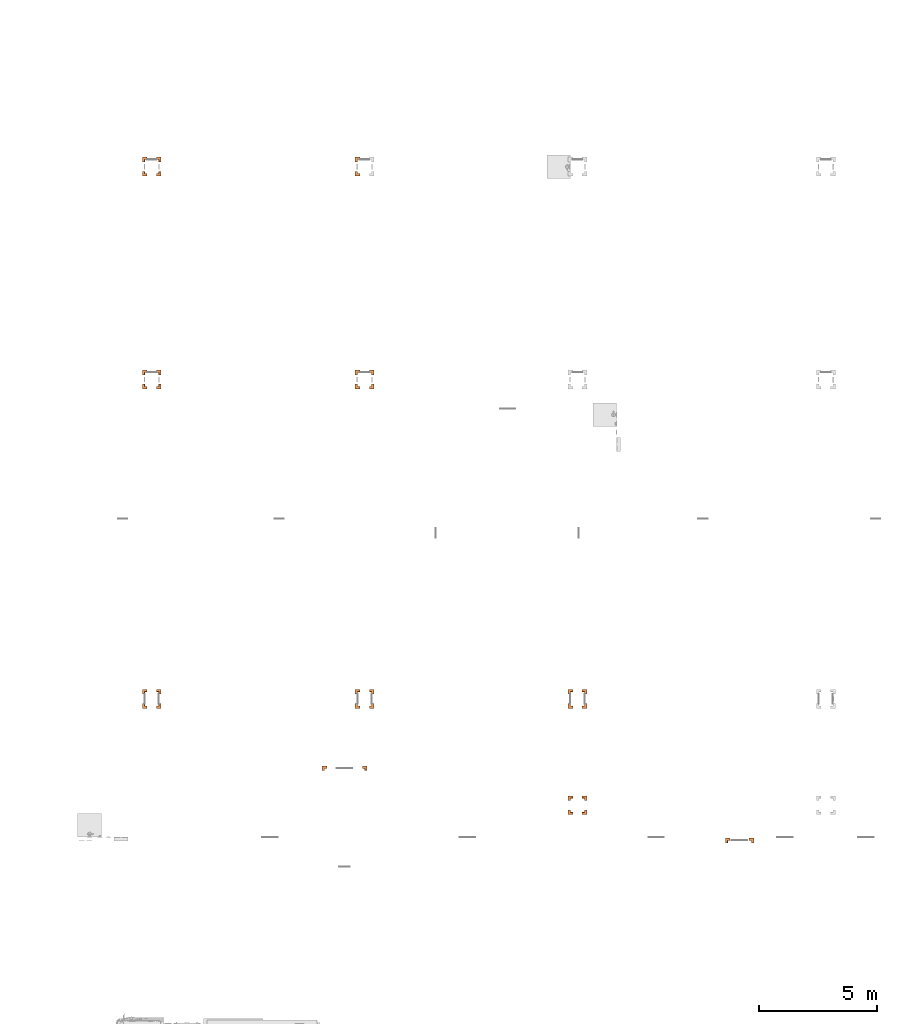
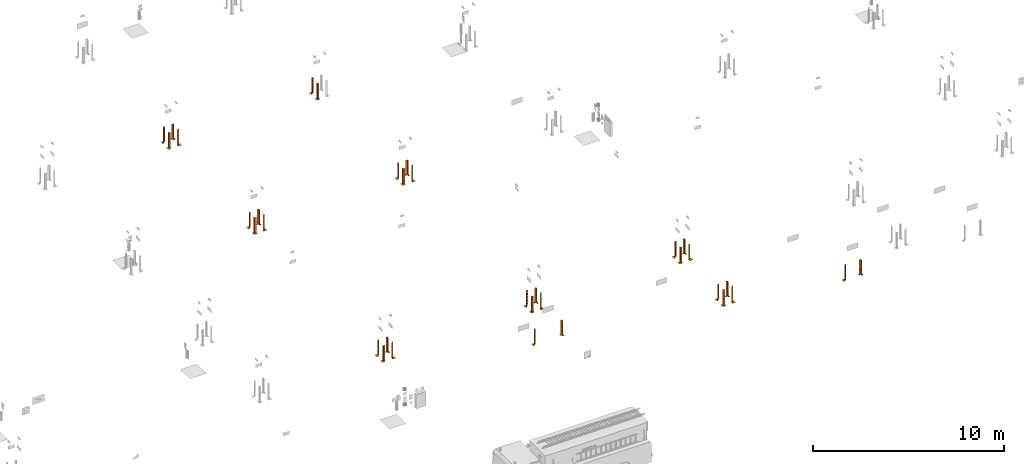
# One storey, part 8 of 119: 34 proxies.
"""IFC2X3 building model written with IfcOpenShell, lengths in metres."""

from ifc_helpers import new_model, entity, si_unit, converted_unit, derived_unit, direction, frame, origin, place, context, subcontext, project, spatial, faceted_brep, source, transform, mapped, material, material_list, type_object, type_shapes, element, save


model = new_model("IFC2X3")

# Units and contexts
model_context = context("Model", 3, precision=1e-05, world=origin(), true_north=direction((6.12303176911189e-17, 1.0)))
body_context = subcontext(model_context, "Body", "Model", "MODEL_VIEW")
ifc_project = project(units=[si_unit("LENGTHUNIT", "METRE"), si_unit("AREAUNIT", "SQUARE_METRE"), si_unit("VOLUMEUNIT", "CUBIC_METRE"), converted_unit("PLANEANGLEUNIT", "DEGREE", entity("IfcRatioMeasure", 0.0174532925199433), si_unit("PLANEANGLEUNIT", "RADIAN"), dimensions=[0, 0, 0, 0, 0, 0, 0]), si_unit("MASSUNIT", "GRAM", prefix="KILO"), derived_unit("MASSDENSITYUNIT", [(si_unit("MASSUNIT", "GRAM", prefix="KILO"), 1), (si_unit("LENGTHUNIT", "METRE"), -3)]), derived_unit("MOMENTOFINERTIAUNIT", [(si_unit("LENGTHUNIT", "METRE"), 4)]), si_unit("TIMEUNIT", "SECOND"), si_unit("FREQUENCYUNIT", "HERTZ"), si_unit("THERMODYNAMICTEMPERATUREUNIT", "DEGREE_CELSIUS"), derived_unit("THERMALTRANSMITTANCEUNIT", [(si_unit("MASSUNIT", "GRAM", prefix="KILO"), 1), (si_unit("THERMODYNAMICTEMPERATUREUNIT", "KELVIN"), -1), (si_unit("TIMEUNIT", "SECOND"), -3)]), derived_unit("VOLUMETRICFLOWRATEUNIT", [(si_unit("LENGTHUNIT", "METRE"), 3), (si_unit("TIMEUNIT", "SECOND"), -1)]), si_unit("ELECTRICCURRENTUNIT", "AMPERE"), si_unit("ELECTRICVOLTAGEUNIT", "VOLT"), si_unit("POWERUNIT", "WATT"), si_unit("FORCEUNIT", "NEWTON", prefix="KILO"), si_unit("ILLUMINANCEUNIT", "LUX"), si_unit("LUMINOUSFLUXUNIT", "LUMEN"), si_unit("LUMINOUSINTENSITYUNIT", "CANDELA"), derived_unit("USERDEFINED", [(si_unit("MASSUNIT", "GRAM", prefix="KILO"), -1), (si_unit("LENGTHUNIT", "METRE"), -2), (si_unit("TIMEUNIT", "SECOND"), 3), (si_unit("LUMINOUSFLUXUNIT", "LUMEN"), 1)]), derived_unit("LINEARVELOCITYUNIT", [(si_unit("LENGTHUNIT", "METRE"), 1), (si_unit("TIMEUNIT", "SECOND"), -1)]), si_unit("PRESSUREUNIT", "PASCAL"), derived_unit("USERDEFINED", [(si_unit("LENGTHUNIT", "METRE"), -2), (si_unit("MASSUNIT", "GRAM", prefix="KILO"), 1), (si_unit("TIMEUNIT", "SECOND"), -2)]), derived_unit("LINEARFORCEUNIT", [(si_unit("MASSUNIT", "GRAM", prefix="KILO"), 1), (si_unit("LENGTHUNIT", "METRE"), 1), (si_unit("TIMEUNIT", "SECOND"), -2), (si_unit("LENGTHUNIT", "METRE"), -1)]), derived_unit("PLANARFORCEUNIT", [(si_unit("MASSUNIT", "GRAM", prefix="KILO"), 1), (si_unit("LENGTHUNIT", "METRE"), 1), (si_unit("TIMEUNIT", "SECOND"), -2), (si_unit("LENGTHUNIT", "METRE"), -2)])], contexts=[model_context])

# Site, building, storey
site_placement = place(None, origin())
site = spatial("IfcSite", under=ifc_project, at=site_placement, Name="Default", CompositionType="ELEMENT")
building_placement = place(site_placement, origin())
building = spatial("IfcBuilding", under=site, at=building_placement, CompositionType="ELEMENT")
storey_placement = place(building_placement, origin())
storey = spatial("IfcBuildingStorey", under=building, at=storey_placement, Name="PAV. 01 - TÉRREO", CompositionType="ELEMENT", Elevation=0.0)

# Proxies
ifc_material_1 = material(Name="Plastico Amarelo")
ifc_material_2 = material(Name="Plastico Preto")
ifc_material_3 = material(Name="O_01_amarelo")
ifc_material_4 = material(Name="O_01_Preto")
ifc_material_list_1 = material_list([ifc_material_1, ifc_material_2, ifc_material_3, ifc_material_4])
ifc_material_list_2 = material_list([ifc_material_3, ifc_material_4, ifc_material_1])
building_element_proxy_type = type_object("IfcBuildingElementProxyType", Name="Indicação de Obstáculos:Indicador - O01 - Amarelo (ambiente interno)", PredefinedType="NOTDEFINED", material=ifc_material_list_2)
shared_shape = source(origin(), body_context, "Body", "Brep", [
    faceted_brep([(0.1, -0.0499999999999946, 0.000999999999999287), (0.0499999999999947, -0.1, 0.000999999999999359), (0.1, -0.1, 0.000999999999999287), (0.1, -0.0499999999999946, 0.0), (0.1, -0.1, 0.0), (0.0499999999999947, -0.1, 0.0)], [[[0, 1, 2]], [[3, 4, 5]], [[0, 2, 4, 3]], [[1, 0, 3, 5]], [[2, 1, 5, 4]]]),
    faceted_brep([(0.100000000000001, 0.0, 0.000999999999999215), (0.0, -0.1, 0.000999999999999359), (0.049999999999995, -0.1, 0.000999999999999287), (0.100000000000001, -0.0499999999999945, 0.000999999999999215), (0.100000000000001, 0.0, 0.0), (0.100000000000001, -0.0499999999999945, 0.0), (0.049999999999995, -0.1, 0.0), (0.0, -0.1, 0.0)], [[[0, 1, 2, 3]], [[4, 5, 6, 7]], [[0, 3, 5, 4]], [[1, 0, 4, 7]], [[3, 2, 6, 5]], [[2, 1, 7, 6]]]),
    faceted_brep([(0.049999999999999, 0.0, 0.000999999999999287), (-0.0500000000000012, -0.0999999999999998, 0.000999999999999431), (0.0, -0.1, 0.000999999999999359), (0.0999999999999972, 0.0, 0.000999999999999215), (0.049999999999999, 0.0, 0.0), (0.0999999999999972, 0.0, 0.0), (0.0, -0.1, 0.0), (-0.0500000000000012, -0.0999999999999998, 0.0)], [[[0, 1, 2, 3]], [[4, 5, 6, 7]], [[1, 0, 4, 7]], [[3, 2, 6, 5]], [[2, 1, 7, 6]], [[0, 3, 5, 4]]]),
    faceted_brep([(-0.0999999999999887, -0.0999999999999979, 0.000999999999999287), (-0.0499999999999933, -0.0999999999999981, 0.000999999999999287), (0.0499999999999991, 0.0, 0.000999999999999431), (0.0, 0.0, 0.000999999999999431), (-0.0999999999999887, -0.0999999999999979, 0.0), (0.0, 0.0, 0.0), (0.049999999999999, 0.0, 0.0), (-0.0499999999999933, -0.0999999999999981, 0.0)], [[[0, 1, 2, 3]], [[4, 5, 6, 7]], [[0, 3, 5, 4]], [[2, 1, 7, 6]], [[3, 2, 6, 5]], [[1, 0, 4, 7]]]),
    faceted_brep([(0.0, 0.0500000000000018, 0.000999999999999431), (-0.0999999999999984, -0.0500000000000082, 0.000999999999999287), (-0.099999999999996, -0.100000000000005, 0.000999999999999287), (0.0, 0.0, 0.000999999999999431), (0.0, 0.0500000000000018, 0.0), (0.0, 0.0, 0.0), (-0.099999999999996, -0.100000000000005, 0.0), (-0.0999999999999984, -0.0500000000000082, 0.0)], [[[0, 1, 2, 3]], [[4, 5, 6, 7]], [[0, 3, 5, 4]], [[1, 0, 4, 7]], [[2, 1, 7, 6]], [[3, 2, 6, 5]]]),
    faceted_brep([(-0.0999999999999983, 0.0499999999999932, 0.000999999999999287), (-0.0499999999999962, 0.1, 0.000999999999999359), (-0.100000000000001, 0.1, 0.000999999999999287), (-0.0999999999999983, 0.0499999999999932, 0.0), (-0.100000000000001, 0.1, 0.0), (-0.0499999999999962, 0.1, 0.0)], [[[0, 1, 2]], [[3, 4, 5]], [[0, 2, 4, 3]], [[1, 0, 3, 5]], [[2, 1, 5, 4]]]),
    faceted_brep([(-0.0999999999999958, 0.0, 0.000999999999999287), (0.0, 0.1, 0.000999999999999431), (-0.0499999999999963, 0.1, 0.000999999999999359), (-0.0999999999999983, 0.0499999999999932, 0.000999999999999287), (-0.0999999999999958, 0.0, 0.0), (-0.0999999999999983, 0.0499999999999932, 0.0), (-0.0499999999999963, 0.1, 0.0), (0.0, 0.1, 0.0)], [[[0, 1, 2, 3]], [[4, 5, 6, 7]], [[0, 3, 5, 4]], [[1, 0, 4, 7]], [[3, 2, 6, 5]], [[2, 1, 7, 6]]]),
    faceted_brep([(0.0, 0.050000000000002, 0.000999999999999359), (0.0, 0.1, 0.000999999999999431), (-0.0999999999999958, 0.0, 0.000999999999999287), (-0.0999999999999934, -0.0500000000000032, 0.000999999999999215), (0.0, 0.0500000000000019, 0.0), (-0.0999999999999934, -0.0500000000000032, 0.0), (-0.0999999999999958, 0.0, 0.0), (0.0, 0.1, 0.0)], [[[0, 1, 2, 3]], [[4, 5, 6, 7]], [[1, 0, 4, 7]], [[2, 1, 7, 6]], [[0, 3, 5, 4]], [[3, 2, 6, 5]]]),
    faceted_brep([(0.00200000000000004, 0.1, 1.0), (0.002, 0.00199999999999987, 0.902000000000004), (0.002, 0.00199999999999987, 0.802000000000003), (0.00200000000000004, 0.1, 0.900000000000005), (0.0, 0.1, 0.900000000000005), (0.0, 0.0, 0.800000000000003), (0.0, 0.0, 0.900000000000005), (0.0, 0.1, 1.0)], [[[0, 1, 2, 3]], [[4, 5, 6, 7]], [[4, 3, 2, 5]], [[1, 6, 5, 2]], [[6, 1, 0, 7]], [[3, 4, 7, 0]]]),
    faceted_brep([(0.00200000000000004, 0.1, 0.800000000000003), (0.002, 0.00199999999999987, 0.702000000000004), (0.002, 0.00199999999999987, 0.602000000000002), (0.00200000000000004, 0.1, 0.700000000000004), (0.0, 0.1, 0.700000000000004), (0.0, 0.0, 0.600000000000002), (0.0, 0.0, 0.700000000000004), (0.0, 0.1, 0.800000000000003)], [[[0, 1, 2, 3]], [[4, 5, 6, 7]], [[4, 3, 2, 5]], [[1, 6, 5, 2]], [[6, 1, 0, 7]], [[3, 4, 7, 0]]]),
    faceted_brep([(0.00200000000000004, 0.1, 0.600000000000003), (0.002, 0.00199999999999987, 0.502000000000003), (0.002, 0.00199999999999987, 0.402000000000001), (0.00200000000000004, 0.1, 0.500000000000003), (0.0, 0.1, 0.500000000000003), (0.0, 0.0, 0.400000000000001), (0.0, 0.0, 0.500000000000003), (0.0, 0.1, 0.600000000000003)], [[[0, 1, 2, 3]], [[4, 5, 6, 7]], [[4, 3, 2, 5]], [[1, 6, 5, 2]], [[6, 1, 0, 7]], [[3, 4, 7, 0]]]),
    faceted_brep([(0.00200000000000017, 0.0999999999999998, 0.400000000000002), (0.00200000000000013, 0.0019999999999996, 0.302000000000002), (0.00200000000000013, 0.0019999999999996, 0.202), (0.00200000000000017, 0.0999999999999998, 0.300000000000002), (0.0, 0.0999999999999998, 0.300000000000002), (0.0, 0.0, 0.2), (0.0, 0.0, 0.300000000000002), (0.0, 0.0999999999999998, 0.400000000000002)], [[[0, 1, 2, 3]], [[4, 5, 6, 7]], [[4, 3, 2, 5]], [[1, 6, 5, 2]], [[6, 1, 0, 7]], [[3, 4, 7, 0]]]),
    faceted_brep([(0.000500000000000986, 0.1, 0.900000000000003), (0.000500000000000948, 0.000499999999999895, 0.800500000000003), (0.000500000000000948, 0.00049999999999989, 0.700500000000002), (0.000500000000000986, 0.1, 0.800000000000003), (0.0, 0.1, 0.800000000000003), (0.0, 0.0, 0.700000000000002), (0.0, 0.0, 0.800000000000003), (0.0, 0.1, 0.900000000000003)], [[[0, 1, 2, 3]], [[4, 5, 6, 7]], [[4, 3, 2, 5]], [[1, 6, 5, 2]], [[6, 1, 0, 7]], [[3, 4, 7, 0]]]),
    faceted_brep([(0.000500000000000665, 0.1, 0.700000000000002), (0.000500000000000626, 0.000499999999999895, 0.600500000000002), (0.000500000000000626, 0.00049999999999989, 0.500500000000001), (0.000500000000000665, 0.1, 0.600000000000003), (0.0, 0.1, 0.600000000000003), (0.0, 0.0, 0.500000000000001), (0.0, 0.0, 0.600000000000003), (0.0, 0.1, 0.700000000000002)], [[[0, 1, 2, 3]], [[4, 5, 6, 7]], [[4, 3, 2, 5]], [[1, 6, 5, 2]], [[6, 1, 0, 7]], [[3, 4, 7, 0]]]),
    faceted_brep([(0.000500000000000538, 0.0999999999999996, 0.500000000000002), (0.000500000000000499, 0.000499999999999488, 0.400500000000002), (0.000500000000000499, 0.000499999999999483, 0.3005), (0.000500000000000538, 0.0999999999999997, 0.400000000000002), (0.0, 0.0999999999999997, 0.400000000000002), (0.0, 0.0, 0.3), (0.0, 0.0, 0.400000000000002), (0.0, 0.0999999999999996, 0.500000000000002)], [[[0, 1, 2, 3]], [[4, 5, 6, 7]], [[4, 3, 2, 5]], [[1, 6, 5, 2]], [[6, 1, 0, 7]], [[3, 4, 7, 0]]]),
    faceted_brep([(0.00499999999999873, 0.00499999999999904, 1.0), (0.00499999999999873, 0.00499999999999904, 0.904999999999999), (0.00499999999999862, 0.0999999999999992, 1.0), (0.0, 0.0, 0.899999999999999), (0.0, 0.0, 1.0), (0.0, 0.0999999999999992, 1.0)], [[[0, 1, 2]], [[3, 4, 5]], [[4, 0, 2, 5]], [[5, 2, 1, 3]], [[0, 4, 3, 1]]]),
    faceted_brep([(0.00499999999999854, 0.00499999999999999, 1.0), (0.0999999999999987, 0.00499999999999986, 1.0), (0.00499999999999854, 0.00499999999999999, 0.904999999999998), (0.0, 0.0, 0.899999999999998), (0.0999999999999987, 0.0, 1.0), (0.0, 0.0, 1.0)], [[[0, 1, 2]], [[3, 4, 5]], [[5, 4, 1, 0]], [[4, 3, 2, 1]], [[0, 2, 3, 5]]]),
    faceted_brep([(0.0999999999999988, 0.000499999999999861, 0.900000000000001), (0.0999999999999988, 0.000499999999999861, 0.800000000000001), (0.000499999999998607, 0.000499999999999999, 0.7005), (0.000499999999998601, 0.000499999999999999, 0.800500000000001), (0.0999999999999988, 0.0, 0.800000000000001), (0.0999999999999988, 0.0, 0.900000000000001), (0.0, 0.0, 0.800000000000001), (0.0, 0.0, 0.7)], [[[0, 1, 2, 3]], [[4, 5, 6, 7]], [[4, 7, 2, 1]], [[3, 2, 7, 6]], [[6, 5, 0, 3]], [[1, 0, 5, 4]]]),
    faceted_brep([(0.0999999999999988, 0.000499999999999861, 0.700000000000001), (0.0999999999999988, 0.000499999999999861, 0.600000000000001), (0.000499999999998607, 0.000499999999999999, 0.5005), (0.000499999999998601, 0.000499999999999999, 0.600500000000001), (0.0999999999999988, 0.0, 0.600000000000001), (0.0999999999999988, 0.0, 0.700000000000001), (0.0, 0.0, 0.600000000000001), (0.0, 0.0, 0.5)], [[[0, 1, 2, 3]], [[4, 5, 6, 7]], [[4, 7, 2, 1]], [[3, 2, 7, 6]], [[6, 5, 0, 3]], [[1, 0, 5, 4]]]),
    faceted_brep([(0.0999999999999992, 0.000499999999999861, 0.500000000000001), (0.0999999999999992, 0.000499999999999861, 0.400000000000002), (0.000499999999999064, 0.000499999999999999, 0.3005), (0.000499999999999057, 0.000499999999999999, 0.400500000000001), (0.0999999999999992, 0.0, 0.400000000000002), (0.0999999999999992, 0.0, 0.500000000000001), (0.0, 0.0, 0.400000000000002), (0.0, 0.0, 0.3)], [[[0, 1, 2, 3]], [[4, 5, 6, 7]], [[4, 7, 2, 1]], [[3, 2, 7, 6]], [[6, 5, 0, 3]], [[1, 0, 5, 4]]]),
    faceted_brep([(0.0999999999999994, 0.00199999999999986, 1.0), (0.0999999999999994, 0.00199999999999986, 0.900000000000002), (0.00199999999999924, 0.002, 0.802), (0.00199999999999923, 0.002, 0.902000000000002), (0.0999999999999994, 0.0, 0.900000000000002), (0.0999999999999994, 0.0, 1.0), (0.0, 0.0, 0.900000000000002), (0.0, 0.0, 0.8)], [[[0, 1, 2, 3]], [[4, 5, 6, 7]], [[4, 7, 2, 1]], [[3, 2, 7, 6]], [[6, 5, 0, 3]], [[1, 0, 5, 4]]]),
    faceted_brep([(0.0999999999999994, 0.00199999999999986, 0.800000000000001), (0.0999999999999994, 0.00199999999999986, 0.700000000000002), (0.00199999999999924, 0.002, 0.602), (0.00199999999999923, 0.002, 0.702000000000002), (0.0999999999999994, 0.0, 0.700000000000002), (0.0999999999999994, 0.0, 0.800000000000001), (0.0, 0.0, 0.700000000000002), (0.0, 0.0, 0.6)], [[[0, 1, 2, 3]], [[4, 5, 6, 7]], [[4, 7, 2, 1]], [[3, 2, 7, 6]], [[6, 5, 0, 3]], [[1, 0, 5, 4]]]),
    faceted_brep([(0.0999999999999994, 0.00199999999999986, 0.600000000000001), (0.0999999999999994, 0.00199999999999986, 0.500000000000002), (0.00199999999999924, 0.002, 0.402), (0.00199999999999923, 0.002, 0.502000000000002), (0.0999999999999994, 0.0, 0.500000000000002), (0.0999999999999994, 0.0, 0.600000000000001), (0.0, 0.0, 0.500000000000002), (0.0, 0.0, 0.4)], [[[0, 1, 2, 3]], [[4, 5, 6, 7]], [[4, 7, 2, 1]], [[3, 2, 7, 6]], [[6, 5, 0, 3]], [[1, 0, 5, 4]]]),
    faceted_brep([(0.0999999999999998, 0.00199999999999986, 0.400000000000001), (0.0999999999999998, 0.00199999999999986, 0.300000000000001), (0.00199999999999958, 0.002, 0.202), (0.00199999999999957, 0.002, 0.302000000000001), (0.0999999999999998, 0.0, 0.300000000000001), (0.0999999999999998, 0.0, 0.400000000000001), (0.0, 0.0, 0.300000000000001), (0.0, 0.0, 0.2)], [[[0, 1, 2, 3]], [[4, 5, 6, 7]], [[4, 7, 2, 1]], [[3, 2, 7, 6]], [[6, 5, 0, 3]], [[1, 0, 5, 4]]]),
    faceted_brep([(0.000500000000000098, 0.1, 0.300000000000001), (0.000500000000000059, 0.000499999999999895, 0.200500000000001), (0.000500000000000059, 0.00049999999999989, 0.1005), (0.000500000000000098, 0.1, 0.200000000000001), (0.0, 0.1, 0.200000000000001), (0.0, 0.0, 0.0999999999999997), (0.0, 0.0, 0.200000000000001), (0.0, 0.1, 0.300000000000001)], [[[0, 1, 2, 3]], [[4, 5, 6, 7]], [[4, 3, 2, 5]], [[1, 6, 5, 2]], [[6, 1, 0, 7]], [[3, 4, 7, 0]]]),
    faceted_brep([(0.00200000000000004, 0.1, 0.200000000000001), (0.002, 0.00199999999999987, 0.102000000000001), (0.002, 0.00199999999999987, 0.00199999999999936), (0.00200000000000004, 0.1, 0.100000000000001), (0.0, 0.1, 0.100000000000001), (0.0, 0.0, 0.0), (0.0, 0.0, 0.100000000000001), (0.0, 0.1, 0.200000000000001)], [[[0, 1, 2, 3]], [[4, 5, 6, 7]], [[4, 3, 2, 5]], [[1, 6, 5, 2]], [[6, 1, 0, 7]], [[3, 4, 7, 0]]]),
    faceted_brep([(0.000500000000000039, 0.1, 0.100000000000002), (0.0005, 0.000499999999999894, 0.000499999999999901), (0.0005, 0.000499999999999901, 0.0), (0.000500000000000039, 0.1, 0.0), (0.0, 0.0, 0.0), (0.0, 0.1, 0.100000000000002), (0.0, 0.1, 0.0)], [[[0, 1, 2, 3]], [[4, 5, 6]], [[3, 6, 5, 0]], [[6, 3, 2, 4]], [[4, 1, 0, 5]], [[1, 4, 2]]]),
    faceted_brep([(0.0999999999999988, 0.000499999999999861, 0.300000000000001), (0.0999999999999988, 0.000499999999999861, 0.200000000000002), (0.000499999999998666, 0.000499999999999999, 0.1005), (0.00049999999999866, 0.000499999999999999, 0.200500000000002), (0.0999999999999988, 0.0, 0.200000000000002), (0.0999999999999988, 0.0, 0.300000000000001), (0.0, 0.0, 0.200000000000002), (0.0, 0.0, 0.1)], [[[0, 1, 2, 3]], [[4, 5, 6, 7]], [[4, 7, 2, 1]], [[3, 2, 7, 6]], [[6, 5, 0, 3]], [[1, 0, 5, 4]]]),
    faceted_brep([(0.0999999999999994, 0.00199999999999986, 0.200000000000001), (0.0999999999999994, 0.00199999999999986, 0.100000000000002), (0.00199999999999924, 0.002, 0.0019999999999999), (0.00199999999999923, 0.002, 0.102000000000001), (0.0999999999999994, 0.0, 0.100000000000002), (0.0999999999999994, 0.0, 0.200000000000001), (0.0, 0.0, 0.100000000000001), (0.0, 0.0, 0.0)], [[[0, 1, 2, 3]], [[4, 5, 6, 7]], [[4, 7, 2, 1]], [[3, 2, 7, 6]], [[6, 5, 0, 3]], [[1, 0, 5, 4]]]),
    faceted_brep([(0.1, 0.000499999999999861, 0.100000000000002), (0.1, 0.000499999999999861, 0.0), (0.000499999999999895, 0.000499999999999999, 0.0), (0.000499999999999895, 0.000499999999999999, 0.000499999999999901), (0.0, 0.0, 0.0), (0.1, 0.0, 0.0), (0.1, 0.0, 0.100000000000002)], [[[0, 1, 2, 3]], [[4, 5, 6]], [[1, 0, 6, 5]], [[5, 4, 2, 1]], [[4, 6, 0, 3]], [[3, 2, 4]]]),
])
type_shapes(building_element_proxy_type, [shared_shape])
proxy_1_placement = place(storey_placement, frame((37.6788348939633, -2.51131105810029, 0.0), z_axis=(0.0, 0.0, 1.0), x_axis=(-1.0, 0.0, 0.0)))
element("IfcBuildingElementProxy", 1, at=proxy_1_placement, inside=storey, type_object=building_element_proxy_type, material=ifc_material_list_1, Name="Indicação de Obstáculos:Indicador - O01 - Amarelo (ambiente interno)", ObjectType="Indicação de Obstáculos:Indicador - O01 - Amarelo (ambiente interno)", context=body_context, shape_type="MappedRepresentation", body=[
    mapped(shared_shape, transform((0.0, 0.0, 0.0), scale=1.0)),
])
ifc_material_list_3 = material_list([ifc_material_1, ifc_material_2, ifc_material_3, ifc_material_4])
proxy_2_placement = place(storey_placement, frame((35.9738372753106, -2.51131105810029, 0.0), z_axis=(0.0, 0.0, 1.0), x_axis=(0.0, -1.0, 0.0)))
element("IfcBuildingElementProxy", 2, at=proxy_2_placement, inside=storey, type_object=building_element_proxy_type, material=ifc_material_list_3, Name="Indicação de Obstáculos:Indicador - O01 - Amarelo (ambiente interno)", ObjectType="Indicação de Obstáculos:Indicador - O01 - Amarelo (ambiente interno)", context=body_context, shape_type="MappedRepresentation", body=[
    mapped(shared_shape, transform((0.0, 0.0, 0.0), scale=1.0)),
])
ifc_material_list_4 = material_list([ifc_material_1, ifc_material_2, ifc_material_3, ifc_material_4])
proxy_3_placement = place(storey_placement, frame((46.9738241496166, 0.128684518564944, 0.0), z_axis=(0.0, 0.0, 1.0), x_axis=(0.0, 1.0, 0.0)))
element("IfcBuildingElementProxy", 3, at=proxy_3_placement, inside=storey, type_object=building_element_proxy_type, material=ifc_material_list_4, Name="Indicação de Obstáculos:Indicador - O01 - Amarelo (ambiente interno)", ObjectType="Indicação de Obstáculos:Indicador - O01 - Amarelo (ambiente interno)", context=body_context, shape_type="MappedRepresentation", body=[
    mapped(shared_shape, transform((0.0, 0.0, 0.0), scale=1.0)),
])
ifc_material_list_5 = material_list([ifc_material_1, ifc_material_2, ifc_material_3, ifc_material_4])
proxy_4_placement = place(storey_placement, frame((46.3738248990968, 0.128684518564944, 0.0)))
element("IfcBuildingElementProxy", 4, at=proxy_4_placement, inside=storey, type_object=building_element_proxy_type, material=ifc_material_list_5, Name="Indicação de Obstáculos:Indicador - O01 - Amarelo (ambiente interno)", ObjectType="Indicação de Obstáculos:Indicador - O01 - Amarelo (ambiente interno)", context=body_context, shape_type="MappedRepresentation", body=[
    mapped(shared_shape, transform((0.0, 0.0, 0.0), scale=1.0)),
])
ifc_material_list_6 = material_list([ifc_material_1, ifc_material_2, ifc_material_3, ifc_material_4])
proxy_5_placement = place(storey_placement, frame((46.9738241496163, 0.728683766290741, 0.0), z_axis=(0.0, 0.0, 1.0), x_axis=(-1.0, 0.0, 0.0)))
element("IfcBuildingElementProxy", 5, at=proxy_5_placement, inside=storey, type_object=building_element_proxy_type, material=ifc_material_list_6, Name="Indicação de Obstáculos:Indicador - O01 - Amarelo (ambiente interno)", ObjectType="Indicação de Obstáculos:Indicador - O01 - Amarelo (ambiente interno)", context=body_context, shape_type="MappedRepresentation", body=[
    mapped(shared_shape, transform((0.0, 0.0, 0.0), scale=1.0)),
])
ifc_material_list_7 = material_list([ifc_material_1, ifc_material_2, ifc_material_3, ifc_material_4])
proxy_6_placement = place(storey_placement, frame((46.3738248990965, 0.728683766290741, 0.0), z_axis=(0.0, 0.0, 1.0), x_axis=(0.0, -1.0, 0.0)))
element("IfcBuildingElementProxy", 6, at=proxy_6_placement, inside=storey, type_object=building_element_proxy_type, material=ifc_material_list_7, Name="Indicação de Obstáculos:Indicador - O01 - Amarelo (ambiente interno)", ObjectType="Indicação de Obstáculos:Indicador - O01 - Amarelo (ambiente interno)", context=body_context, shape_type="MappedRepresentation", body=[
    mapped(shared_shape, transform((0.0, 0.0, 0.0), scale=1.0)),
])
ifc_material_list_8 = material_list([ifc_material_1, ifc_material_2, ifc_material_3, ifc_material_4])
proxy_7_placement = place(storey_placement, frame((37.9738354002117, 0.128684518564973, 0.0), z_axis=(0.0, 0.0, 1.0), x_axis=(0.0, 1.0, 0.0)))
element("IfcBuildingElementProxy", 7, at=proxy_7_placement, inside=storey, type_object=building_element_proxy_type, material=ifc_material_list_8, Name="Indicação de Obstáculos:Indicador - O01 - Amarelo (ambiente interno)", ObjectType="Indicação de Obstáculos:Indicador - O01 - Amarelo (ambiente interno)", context=body_context, shape_type="MappedRepresentation", body=[
    mapped(shared_shape, transform((0.0, 0.0, 0.0), scale=1.0)),
])
ifc_material_list_9 = material_list([ifc_material_1, ifc_material_2, ifc_material_3, ifc_material_4])
proxy_8_placement = place(storey_placement, frame((37.3738361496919, 0.128684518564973, 0.0)))
element("IfcBuildingElementProxy", 8, at=proxy_8_placement, inside=storey, type_object=building_element_proxy_type, material=ifc_material_list_9, Name="Indicação de Obstáculos:Indicador - O01 - Amarelo (ambiente interno)", ObjectType="Indicação de Obstáculos:Indicador - O01 - Amarelo (ambiente interno)", context=body_context, shape_type="MappedRepresentation", body=[
    mapped(shared_shape, transform((0.0, 0.0, 0.0), scale=1.0)),
])
ifc_material_list_10 = material_list([ifc_material_1, ifc_material_2, ifc_material_3, ifc_material_4])
proxy_9_placement = place(storey_placement, frame((37.9738354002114, 0.72868376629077, 0.0), z_axis=(0.0, 0.0, 1.0), x_axis=(-1.0, 0.0, 0.0)))
element("IfcBuildingElementProxy", 9, at=proxy_9_placement, inside=storey, type_object=building_element_proxy_type, material=ifc_material_list_10, Name="Indicação de Obstáculos:Indicador - O01 - Amarelo (ambiente interno)", ObjectType="Indicação de Obstáculos:Indicador - O01 - Amarelo (ambiente interno)", context=body_context, shape_type="MappedRepresentation", body=[
    mapped(shared_shape, transform((0.0, 0.0, 0.0), scale=1.0)),
])
ifc_material_list_11 = material_list([ifc_material_1, ifc_material_2, ifc_material_3, ifc_material_4])
proxy_10_placement = place(storey_placement, frame((37.3738361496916, 0.72868376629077, 0.0), z_axis=(0.0, 0.0, 1.0), x_axis=(0.0, -1.0, 0.0)))
element("IfcBuildingElementProxy", 10, at=proxy_10_placement, inside=storey, type_object=building_element_proxy_type, material=ifc_material_list_11, Name="Indicação de Obstáculos:Indicador - O01 - Amarelo (ambiente interno)", ObjectType="Indicação de Obstáculos:Indicador - O01 - Amarelo (ambiente interno)", context=body_context, shape_type="MappedRepresentation", body=[
    mapped(shared_shape, transform((0.0, 0.0, 0.0), scale=1.0)),
])
ifc_material_list_12 = material_list([ifc_material_1, ifc_material_2, ifc_material_3, ifc_material_4])
proxy_11_placement = place(storey_placement, frame((28.9738466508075, 0.128684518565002, 0.0), z_axis=(0.0, 0.0, 1.0), x_axis=(0.0, 1.0, 0.0)))
element("IfcBuildingElementProxy", 11, at=proxy_11_placement, inside=storey, type_object=building_element_proxy_type, material=ifc_material_list_12, Name="Indicação de Obstáculos:Indicador - O01 - Amarelo (ambiente interno)", ObjectType="Indicação de Obstáculos:Indicador - O01 - Amarelo (ambiente interno)", context=body_context, shape_type="MappedRepresentation", body=[
    mapped(shared_shape, transform((0.0, 0.0, 0.0), scale=1.0)),
])
ifc_material_list_13 = material_list([ifc_material_1, ifc_material_2, ifc_material_3, ifc_material_4])
proxy_12_placement = place(storey_placement, frame((28.3738474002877, 0.128684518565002, 0.0)))
element("IfcBuildingElementProxy", 12, at=proxy_12_placement, inside=storey, type_object=building_element_proxy_type, material=ifc_material_list_13, Name="Indicação de Obstáculos:Indicador - O01 - Amarelo (ambiente interno)", ObjectType="Indicação de Obstáculos:Indicador - O01 - Amarelo (ambiente interno)", context=body_context, shape_type="MappedRepresentation", body=[
    mapped(shared_shape, transform((0.0, 0.0, 0.0), scale=1.0)),
])
ifc_material_list_14 = material_list([ifc_material_1, ifc_material_2, ifc_material_3, ifc_material_4])
proxy_13_placement = place(storey_placement, frame((28.9738466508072, 0.728683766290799, 0.0), z_axis=(0.0, 0.0, 1.0), x_axis=(-1.0, 0.0, 0.0)))
element("IfcBuildingElementProxy", 13, at=proxy_13_placement, inside=storey, type_object=building_element_proxy_type, material=ifc_material_list_14, Name="Indicação de Obstáculos:Indicador - O01 - Amarelo (ambiente interno)", ObjectType="Indicação de Obstáculos:Indicador - O01 - Amarelo (ambiente interno)", context=body_context, shape_type="MappedRepresentation", body=[
    mapped(shared_shape, transform((0.0, 0.0, 0.0), scale=1.0)),
])
ifc_material_list_15 = material_list([ifc_material_1, ifc_material_2, ifc_material_3, ifc_material_4])
proxy_14_placement = place(storey_placement, frame((28.3738474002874, 0.728683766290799, 0.0), z_axis=(0.0, 0.0, 1.0), x_axis=(0.0, -1.0, 0.0)))
element("IfcBuildingElementProxy", 14, at=proxy_14_placement, inside=storey, type_object=building_element_proxy_type, material=ifc_material_list_15, Name="Indicação de Obstáculos:Indicador - O01 - Amarelo (ambiente interno)", ObjectType="Indicação de Obstáculos:Indicador - O01 - Amarelo (ambiente interno)", context=body_context, shape_type="MappedRepresentation", body=[
    mapped(shared_shape, transform((0.0, 0.0, 0.0), scale=1.0)),
])
ifc_material_list_16 = material_list([ifc_material_1, ifc_material_2, ifc_material_3, ifc_material_4])
proxy_15_placement = place(storey_placement, frame((37.9738354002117, 13.6286676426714, 0.0), z_axis=(0.0, 0.0, 1.0), x_axis=(0.0, 1.0, 0.0)))
element("IfcBuildingElementProxy", 15, at=proxy_15_placement, inside=storey, type_object=building_element_proxy_type, material=ifc_material_list_16, Name="Indicação de Obstáculos:Indicador - O01 - Amarelo (ambiente interno)", ObjectType="Indicação de Obstáculos:Indicador - O01 - Amarelo (ambiente interno)", context=body_context, shape_type="MappedRepresentation", body=[
    mapped(shared_shape, transform((0.0, 0.0, 0.0), scale=1.0)),
])
ifc_material_list_17 = material_list([ifc_material_1, ifc_material_2, ifc_material_3, ifc_material_4])
proxy_16_placement = place(storey_placement, frame((37.3738361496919, 13.6286676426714, 0.0)))
element("IfcBuildingElementProxy", 16, at=proxy_16_placement, inside=storey, type_object=building_element_proxy_type, material=ifc_material_list_17, Name="Indicação de Obstáculos:Indicador - O01 - Amarelo (ambiente interno)", ObjectType="Indicação de Obstáculos:Indicador - O01 - Amarelo (ambiente interno)", context=body_context, shape_type="MappedRepresentation", body=[
    mapped(shared_shape, transform((0.0, 0.0, 0.0), scale=1.0)),
])
ifc_material_list_18 = material_list([ifc_material_1, ifc_material_2, ifc_material_3, ifc_material_4])
proxy_17_placement = place(storey_placement, frame((37.9738354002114, 14.2286668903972, 0.0), z_axis=(0.0, 0.0, 1.0), x_axis=(-1.0, 0.0, 0.0)))
element("IfcBuildingElementProxy", 17, at=proxy_17_placement, inside=storey, type_object=building_element_proxy_type, material=ifc_material_list_18, Name="Indicação de Obstáculos:Indicador - O01 - Amarelo (ambiente interno)", ObjectType="Indicação de Obstáculos:Indicador - O01 - Amarelo (ambiente interno)", context=body_context, shape_type="MappedRepresentation", body=[
    mapped(shared_shape, transform((0.0, 0.0, 0.0), scale=1.0)),
])
ifc_material_list_19 = material_list([ifc_material_1, ifc_material_2, ifc_material_3, ifc_material_4])
proxy_18_placement = place(storey_placement, frame((37.3738361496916, 14.2286668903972, 0.0), z_axis=(0.0, 0.0, 1.0), x_axis=(0.0, -1.0, 0.0)))
element("IfcBuildingElementProxy", 18, at=proxy_18_placement, inside=storey, type_object=building_element_proxy_type, material=ifc_material_list_19, Name="Indicação de Obstáculos:Indicador - O01 - Amarelo (ambiente interno)", ObjectType="Indicação de Obstáculos:Indicador - O01 - Amarelo (ambiente interno)", context=body_context, shape_type="MappedRepresentation", body=[
    mapped(shared_shape, transform((0.0, 0.0, 0.0), scale=1.0)),
])
ifc_material_list_20 = material_list([ifc_material_1, ifc_material_2, ifc_material_3, ifc_material_4])
proxy_19_placement = place(storey_placement, frame((28.9738466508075, 13.6286676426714, 0.0), z_axis=(0.0, 0.0, 1.0), x_axis=(0.0, 1.0, 0.0)))
element("IfcBuildingElementProxy", 19, at=proxy_19_placement, inside=storey, type_object=building_element_proxy_type, material=ifc_material_list_20, Name="Indicação de Obstáculos:Indicador - O01 - Amarelo (ambiente interno)", ObjectType="Indicação de Obstáculos:Indicador - O01 - Amarelo (ambiente interno)", context=body_context, shape_type="MappedRepresentation", body=[
    mapped(shared_shape, transform((0.0, 0.0, 0.0), scale=1.0)),
])
ifc_material_list_21 = material_list([ifc_material_1, ifc_material_2, ifc_material_3, ifc_material_4])
proxy_20_placement = place(storey_placement, frame((28.3738474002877, 13.6286676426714, 0.0)))
element("IfcBuildingElementProxy", 20, at=proxy_20_placement, inside=storey, type_object=building_element_proxy_type, material=ifc_material_list_21, Name="Indicação de Obstáculos:Indicador - O01 - Amarelo (ambiente interno)", ObjectType="Indicação de Obstáculos:Indicador - O01 - Amarelo (ambiente interno)", context=body_context, shape_type="MappedRepresentation", body=[
    mapped(shared_shape, transform((0.0, 0.0, 0.0), scale=1.0)),
])
ifc_material_list_22 = material_list([ifc_material_1, ifc_material_2, ifc_material_3, ifc_material_4])
proxy_21_placement = place(storey_placement, frame((28.9738466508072, 14.2286668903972, 0.0), z_axis=(0.0, 0.0, 1.0), x_axis=(-1.0, 0.0, 0.0)))
element("IfcBuildingElementProxy", 21, at=proxy_21_placement, inside=storey, type_object=building_element_proxy_type, material=ifc_material_list_22, Name="Indicação de Obstáculos:Indicador - O01 - Amarelo (ambiente interno)", ObjectType="Indicação de Obstáculos:Indicador - O01 - Amarelo (ambiente interno)", context=body_context, shape_type="MappedRepresentation", body=[
    mapped(shared_shape, transform((0.0, 0.0, 0.0), scale=1.0)),
])
ifc_material_list_23 = material_list([ifc_material_1, ifc_material_2, ifc_material_3, ifc_material_4])
proxy_22_placement = place(storey_placement, frame((28.3738474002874, 14.2286668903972, 0.0), z_axis=(0.0, 0.0, 1.0), x_axis=(0.0, -1.0, 0.0)))
element("IfcBuildingElementProxy", 22, at=proxy_22_placement, inside=storey, type_object=building_element_proxy_type, material=ifc_material_list_23, Name="Indicação de Obstáculos:Indicador - O01 - Amarelo (ambiente interno)", ObjectType="Indicação de Obstáculos:Indicador - O01 - Amarelo (ambiente interno)", context=body_context, shape_type="MappedRepresentation", body=[
    mapped(shared_shape, transform((0.0, 0.0, 0.0), scale=1.0)),
])
ifc_material_list_24 = material_list([ifc_material_1, ifc_material_2, ifc_material_3, ifc_material_4])
proxy_23_placement = place(storey_placement, frame((46.9738241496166, -4.37130985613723, 0.0), z_axis=(0.0, 0.0, 1.0), x_axis=(0.0, 1.0, 0.0)))
element("IfcBuildingElementProxy", 23, at=proxy_23_placement, inside=storey, type_object=building_element_proxy_type, material=ifc_material_list_24, Name="Indicação de Obstáculos:Indicador - O01 - Amarelo (ambiente interno)", ObjectType="Indicação de Obstáculos:Indicador - O01 - Amarelo (ambiente interno)", context=body_context, shape_type="MappedRepresentation", body=[
    mapped(shared_shape, transform((0.0, 0.0, 0.0), scale=1.0)),
])
ifc_material_list_25 = material_list([ifc_material_1, ifc_material_2, ifc_material_3, ifc_material_4])
proxy_24_placement = place(storey_placement, frame((46.3738248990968, -4.37130985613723, 0.0)))
element("IfcBuildingElementProxy", 24, at=proxy_24_placement, inside=storey, type_object=building_element_proxy_type, material=ifc_material_list_25, Name="Indicação de Obstáculos:Indicador - O01 - Amarelo (ambiente interno)", ObjectType="Indicação de Obstáculos:Indicador - O01 - Amarelo (ambiente interno)", context=body_context, shape_type="MappedRepresentation", body=[
    mapped(shared_shape, transform((0.0, 0.0, 0.0), scale=1.0)),
])
ifc_material_list_26 = material_list([ifc_material_1, ifc_material_2, ifc_material_3, ifc_material_4])
proxy_25_placement = place(storey_placement, frame((46.9738241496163, -3.77131060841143, 0.0), z_axis=(0.0, 0.0, 1.0), x_axis=(-1.0, 0.0, 0.0)))
element("IfcBuildingElementProxy", 25, at=proxy_25_placement, inside=storey, type_object=building_element_proxy_type, material=ifc_material_list_26, Name="Indicação de Obstáculos:Indicador - O01 - Amarelo (ambiente interno)", ObjectType="Indicação de Obstáculos:Indicador - O01 - Amarelo (ambiente interno)", context=body_context, shape_type="MappedRepresentation", body=[
    mapped(shared_shape, transform((0.0, 0.0, 0.0), scale=1.0)),
])
ifc_material_list_27 = material_list([ifc_material_1, ifc_material_2, ifc_material_3, ifc_material_4])
proxy_26_placement = place(storey_placement, frame((46.3738248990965, -3.77131060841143, 0.0), z_axis=(0.0, 0.0, 1.0), x_axis=(0.0, -1.0, 0.0)))
element("IfcBuildingElementProxy", 26, at=proxy_26_placement, inside=storey, type_object=building_element_proxy_type, material=ifc_material_list_27, Name="Indicação de Obstáculos:Indicador - O01 - Amarelo (ambiente interno)", ObjectType="Indicação de Obstáculos:Indicador - O01 - Amarelo (ambiente interno)", context=body_context, shape_type="MappedRepresentation", body=[
    mapped(shared_shape, transform((0.0, 0.0, 0.0), scale=1.0)),
])
ifc_material_list_28 = material_list([ifc_material_1, ifc_material_2, ifc_material_3, ifc_material_4])
proxy_27_placement = place(storey_placement, frame((54.0248143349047, -5.56159136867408, 0.0), z_axis=(0.0, 0.0, 1.0), x_axis=(-1.0, 0.0, 0.0)))
element("IfcBuildingElementProxy", 27, at=proxy_27_placement, inside=storey, type_object=building_element_proxy_type, material=ifc_material_list_28, Name="Indicação de Obstáculos:Indicador - O01 - Amarelo (ambiente interno)", ObjectType="Indicação de Obstáculos:Indicador - O01 - Amarelo (ambiente interno)", context=body_context, shape_type="MappedRepresentation", body=[
    mapped(shared_shape, transform((0.0, 0.0, 0.0), scale=1.0)),
])
ifc_material_list_29 = material_list([ifc_material_1, ifc_material_2, ifc_material_3, ifc_material_4])
proxy_28_placement = place(storey_placement, frame((53.0248165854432, -5.56159136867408, 0.0), z_axis=(0.0, 0.0, 1.0), x_axis=(0.0, -1.0, 0.0)))
element("IfcBuildingElementProxy", 28, at=proxy_28_placement, inside=storey, type_object=building_element_proxy_type, material=ifc_material_list_29, Name="Indicação de Obstáculos:Indicador - O01 - Amarelo (ambiente interno)", ObjectType="Indicação de Obstáculos:Indicador - O01 - Amarelo (ambiente interno)", context=body_context, shape_type="MappedRepresentation", body=[
    mapped(shared_shape, transform((0.0, 0.0, 0.0), scale=1.0)),
])
ifc_material_list_30 = material_list([ifc_material_1, ifc_material_2, ifc_material_3, ifc_material_4])
proxy_29_placement = place(storey_placement, frame((37.3738361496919, 22.6286563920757, 0.0)))
element("IfcBuildingElementProxy", 29, at=proxy_29_placement, inside=storey, type_object=building_element_proxy_type, material=ifc_material_list_30, Name="Indicação de Obstáculos:Indicador - O01 - Amarelo (ambiente interno)", ObjectType="Indicação de Obstáculos:Indicador - O01 - Amarelo (ambiente interno)", context=body_context, shape_type="MappedRepresentation", body=[
    mapped(shared_shape, transform((0.0, 0.0, 0.0), scale=1.0)),
])
ifc_material_list_31 = material_list([ifc_material_1, ifc_material_2, ifc_material_3, ifc_material_4])
proxy_30_placement = place(storey_placement, frame((37.3738361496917, 23.2286556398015, 0.0), z_axis=(0.0, 0.0, 1.0), x_axis=(0.0, -1.0, 0.0)))
element("IfcBuildingElementProxy", 30, at=proxy_30_placement, inside=storey, type_object=building_element_proxy_type, material=ifc_material_list_31, Name="Indicação de Obstáculos:Indicador - O01 - Amarelo (ambiente interno)", ObjectType="Indicação de Obstáculos:Indicador - O01 - Amarelo (ambiente interno)", context=body_context, shape_type="MappedRepresentation", body=[
    mapped(shared_shape, transform((0.0, 0.0, 0.0), scale=1.0)),
])
ifc_material_list_32 = material_list([ifc_material_1, ifc_material_2, ifc_material_3, ifc_material_4])
proxy_31_placement = place(storey_placement, frame((28.9738466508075, 22.6286563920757, 0.0), z_axis=(0.0, 0.0, 1.0), x_axis=(0.0, 1.0, 0.0)))
element("IfcBuildingElementProxy", 31, at=proxy_31_placement, inside=storey, type_object=building_element_proxy_type, material=ifc_material_list_32, Name="Indicação de Obstáculos:Indicador - O01 - Amarelo (ambiente interno)", ObjectType="Indicação de Obstáculos:Indicador - O01 - Amarelo (ambiente interno)", context=body_context, shape_type="MappedRepresentation", body=[
    mapped(shared_shape, transform((0.0, 0.0, 0.0), scale=1.0)),
])
ifc_material_list_33 = material_list([ifc_material_1, ifc_material_2, ifc_material_3, ifc_material_4])
proxy_32_placement = place(storey_placement, frame((28.3738474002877, 22.6286563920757, 0.0)))
element("IfcBuildingElementProxy", 32, at=proxy_32_placement, inside=storey, type_object=building_element_proxy_type, material=ifc_material_list_33, Name="Indicação de Obstáculos:Indicador - O01 - Amarelo (ambiente interno)", ObjectType="Indicação de Obstáculos:Indicador - O01 - Amarelo (ambiente interno)", context=body_context, shape_type="MappedRepresentation", body=[
    mapped(shared_shape, transform((0.0, 0.0, 0.0), scale=1.0)),
])
ifc_material_list_34 = material_list([ifc_material_1, ifc_material_2, ifc_material_3, ifc_material_4])
proxy_33_placement = place(storey_placement, frame((28.9738466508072, 23.2286556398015, 0.0), z_axis=(0.0, 0.0, 1.0), x_axis=(-1.0, 0.0, 0.0)))
element("IfcBuildingElementProxy", 33, at=proxy_33_placement, inside=storey, type_object=building_element_proxy_type, material=ifc_material_list_34, Name="Indicação de Obstáculos:Indicador - O01 - Amarelo (ambiente interno)", ObjectType="Indicação de Obstáculos:Indicador - O01 - Amarelo (ambiente interno)", context=body_context, shape_type="MappedRepresentation", body=[
    mapped(shared_shape, transform((0.0, 0.0, 0.0), scale=1.0)),
])
ifc_material_list_35 = material_list([ifc_material_1, ifc_material_2, ifc_material_3, ifc_material_4])
proxy_34_placement = place(storey_placement, frame((28.3738474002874, 23.2286556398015, 0.0), z_axis=(0.0, 0.0, 1.0), x_axis=(0.0, -1.0, 0.0)))
element("IfcBuildingElementProxy", 34, at=proxy_34_placement, inside=storey, type_object=building_element_proxy_type, material=ifc_material_list_35, Name="Indicação de Obstáculos:Indicador - O01 - Amarelo (ambiente interno)", ObjectType="Indicação de Obstáculos:Indicador - O01 - Amarelo (ambiente interno)", context=body_context, shape_type="MappedRepresentation", body=[
    mapped(shared_shape, transform((0.0, 0.0, 0.0), scale=1.0)),
])

save(model, "model.ifc")
